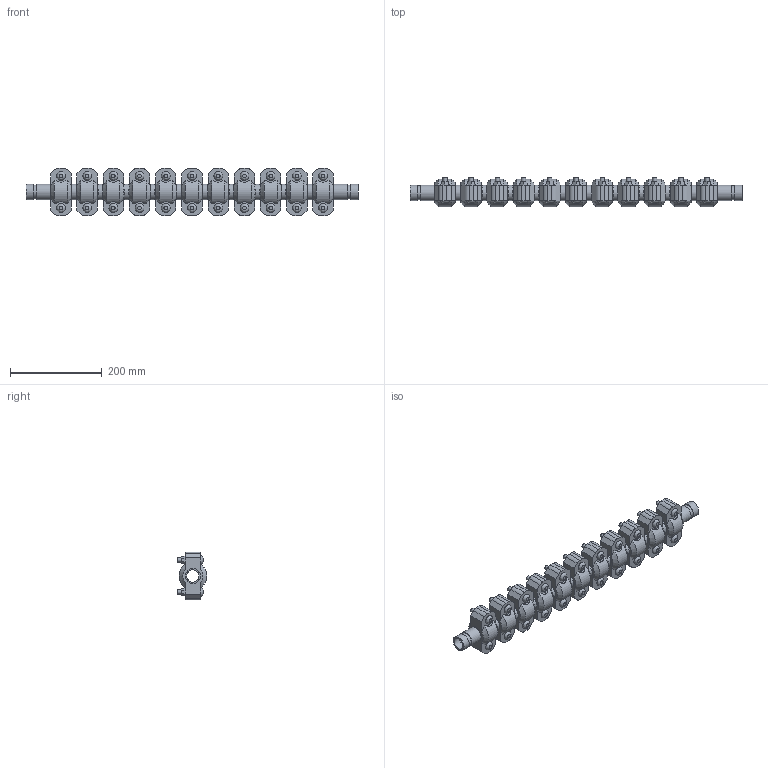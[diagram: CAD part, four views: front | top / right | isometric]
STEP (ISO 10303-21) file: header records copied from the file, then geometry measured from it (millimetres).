
FILE_DESCRIPTION(/* description */ ('VIC EXPANSION JOINT 11 COUPLINGS COMPRESSED STYLE 155 (OGS)','CAx-IF Rec.Pracs.---Representation and Presentation of Product Manufacturing Information (PMI)---4.0---2014-10-13'),/* implementation_level */ '2;1');
FILE_NAME(/* name */ 'C:\Users\kkamble\AppData\Roaming\Autodesk\ApplicationPlugins\Victaulic.Temp\A956\Victaulic_IPS_Expansion Joint_Compressed_11 Couplings_Style 155 (OGS)_1 (25).stp',/* time_stamp */ '2021-06-27T00:18:27+02:00',/* author */ ('kkamble'),/* organization */ ('Victaulic'),/* preprocessor_version */ 'ST-DEVELOPER v17.2',/* originating_system */ 'Autodesk Inventor 2019',/* authorisation */ '');
FILE_SCHEMA (('AP242_MANAGED_MODEL_BASED_3D_ENGINEERING_MIM_LF { 1 0 10303 442 1 1 4 }'));
Length unit declared in the file: inch
Products named in the file (4): 155-01.0; Nipple-01.0; Nipple-01.0_1; 077-01.0
Assembly tree (23 placements, depth 2):
  155-01.0
    Nipple-01.0  x2
    Nipple-01.0_1  x10
    077-01.0  x11
Bounding box: 723.9 x 64.33 x 104.65 mm (x, y, z)
Volume: 1797918.3 mm3; surface area: 464713.2 mm2
Topology: 23 solids, 45 shells, 771 faces, 1889 edges, 1322 vertices
Faces by surface type: plane 446, cylinder 259, cone 44, bspline 22
Full cylindrical faces by diameter (mm): 9.525 x44, 11.43 x22, 26.645 x12, 30.226 x24, 33.401 x47
Entity records: 2987 total; most frequent: CARTESIAN_POINT 569, DIRECTION 491, ORIENTED_EDGE 398, EDGE_CURVE 199, AXIS2_PLACEMENT_3D 198, VERTEX_POINT 142, EDGE_LOOP 105, LINE 95
